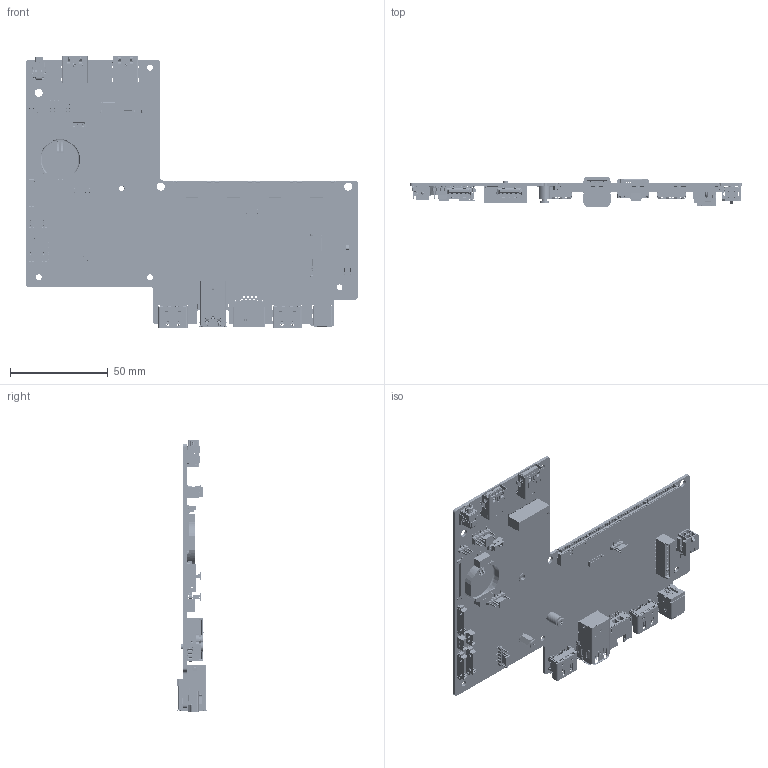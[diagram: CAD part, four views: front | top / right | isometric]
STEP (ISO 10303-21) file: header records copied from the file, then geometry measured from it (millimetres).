
FILE_DESCRIPTION((''),'2;1');
FILE_NAME('PCBA_A_BASE_KIT_AB_2_ASM','2019-10-18T',('jessechien'),(''),'PRO/ENGINEER BY PARAMETRIC TECHNOLOGY CORPORATION, 2015030','PRO/ENGINEER BY PARAMETRIC TECHNOLOGY CORPORATION, 2015030','');
FILE_SCHEMA(('AUTOMOTIVE_DESIGN { 1 0 10303 214 1 1 1 1 }'));
Products named in the file (28): PCB_A_BASE_KIT_AB_INTEL; 10-084-009126_LOTES_AUSTINB; 10-084-004145_LOTES; TLLA4-72BWQR_DIPTRONICS; 11-371-002575_MOSTWELL; 10-083-019864_MOSTWELL; 11-367-012200_SINGATRON; 10-084-018053_LOTES; 10-456-067074_LOTES; 10-456-067074_ADDNUT_2280_ASM; 23-745-201055_GREAT_GOLD; SCREW_I_M20X30D50H08_NI; 23-745-300355_GREAT_GOLD; 23-642-200047_GREAT_GOLD; 10-038-004865_MOSTWELL; 10-261-010394_ACES; 10-340-003822_LS; 10-078-040393_ACES; 10-261-004407_ACES; 10-361-009390_ACES; 10-382-012827_LS; 11-100-002133_LOTES; 10-456-300062_LOTES; 10-261-004406_ACES; 10-340-004821_LS; 10-340-006821_LS; 10-331-010391_ACES; PCBA_A_BASE_KIT_AB_2_ASM
Assembly tree (34 placements, depth 3):
  PCBA_A_BASE_KIT_AB_2_ASM
    PCB_A_BASE_KIT_AB_INTEL
    10-084-009126_LOTES_AUSTINB
    10-084-004145_LOTES
    TLLA4-72BWQR_DIPTRONICS
    11-371-002575_MOSTWELL
    10-083-019864_MOSTWELL  x2
    11-367-012200_SINGATRON
    10-084-018053_LOTES
    10-456-067074_ADDNUT_2280_ASM  x2
      10-456-067074_LOTES
    23-745-201055_GREAT_GOLD
    SCREW_I_M20X30D50H08_NI  x2
    23-745-300355_GREAT_GOLD  x2
    23-642-200047_GREAT_GOLD
    10-038-004865_MOSTWELL
    10-261-010394_ACES
    10-340-003822_LS
    10-078-040393_ACES
    10-261-004407_ACES  x2
    10-361-009390_ACES  x2
    10-382-012827_LS
    11-100-002133_LOTES
    10-456-300062_LOTES
    10-261-004406_ACES
    10-340-004821_LS
    10-340-006821_LS  x2
    10-331-010391_ACES
Bounding box: 170 x 15.6 x 139.38 mm (x, y, z)
Volume: 34625.7 mm3; surface area: 61996.1 mm2
Topology: 39 solids, 82 shells, 27221 faces, 83899 edges, 56196 vertices
Faces by surface type: plane 19144, cylinder 7104, bspline 533, sphere 168, cone 157, torus 99, extrusion 16
Entity records: 962859 total; most frequent: CARTESIAN_POINT 162837, ORIENTED_EDGE 133466, DIRECTION 126420, EDGE_CURVE 66761, VECTOR 55284, LINE 55276, VERTEX_POINT 43518, PRESENTATION_STYLE_ASSIGNMENT 39369
